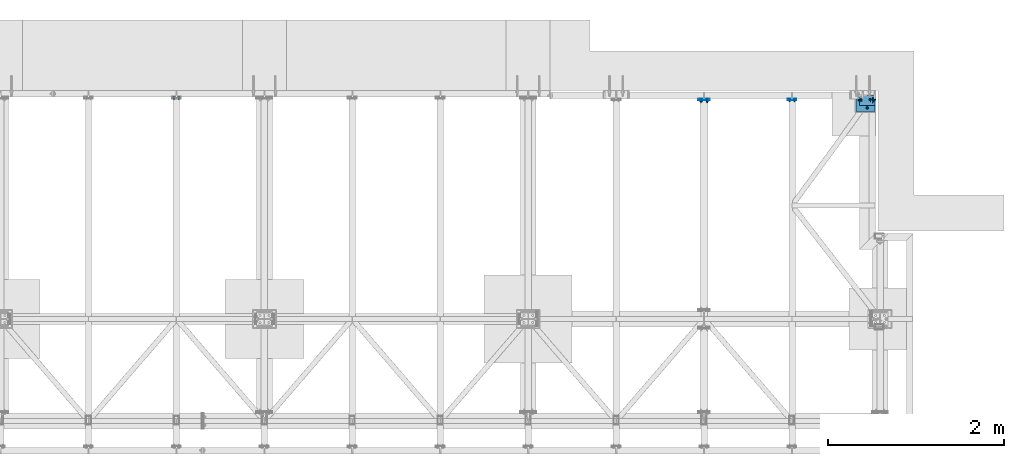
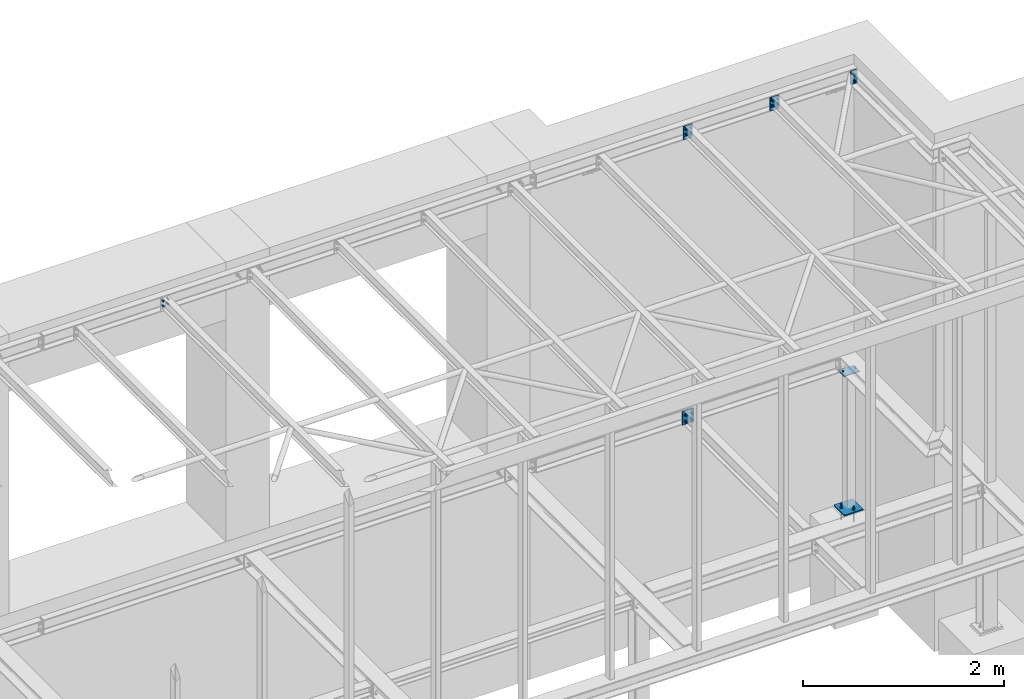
# One storey, part 19 of 23: 9 discrete accessories, 8 mechanical fasteners, 8 elements without a shape of their own.
"""IFC2X3 building model written with IfcOpenShell, lengths in millimetres."""

from ifc_helpers import new_model, si_unit, frame, origin_with_axes, origin_2d_with_axis, place, context, subcontext, project, spatial, polyline, circle, outline, extrude, source, transform, mapped, material, type_object, element, aggregate, save


model = new_model("IFC2X3")

# Units and contexts
model_context = context("Model", 3, precision=1e-05, world=origin_with_axes())
body_context = subcontext(model_context, "Body", "Model", "MODEL_VIEW")
ifc_project = project(units=[si_unit("LENGTHUNIT", "METRE", prefix="MILLI"), si_unit("AREAUNIT", "SQUARE_METRE"), si_unit("VOLUMEUNIT", "CUBIC_METRE"), si_unit("MASSUNIT", "GRAM", prefix="KILO"), si_unit("TIMEUNIT", "SECOND"), si_unit("PLANEANGLEUNIT", "RADIAN"), si_unit("SOLIDANGLEUNIT", "STERADIAN"), si_unit("THERMODYNAMICTEMPERATUREUNIT", "DEGREE_CELSIUS"), si_unit("LUMINOUSINTENSITYUNIT", "LUMEN")], contexts=[model_context])

# Site, building, storey
site_placement = place(None, origin_with_axes())
site = spatial("IfcSite", under=ifc_project, at=site_placement, Name="Undefined", CompositionType="ELEMENT")
building_placement = place(site_placement, origin_with_axes())
building = spatial("IfcBuilding", under=site, at=building_placement, Name="Undefined", CompositionType="ELEMENT")
storey_placement = place(building_placement, origin_with_axes())
storey = spatial("IfcBuildingStorey", under=building, at=storey_placement, Name="Undefined", CompositionType="ELEMENT", Elevation=0.0)

# Assembly, mechanical fastener
assembly_1_placement = place(storey_placement, origin_with_axes())
assembly_1 = element("IfcElementAssembly", 1, at=assembly_1_placement, inside=storey, Name="Steel Assembly", AssemblyPlace="NOTDEFINED", PredefinedType="RIGID_FRAME")
ifc_material_1 = material(Name="Undefined")
discrete_accessory_type_1 = type_object("IfcDiscreteAccessoryType", Name="Bolt assembly")
shared_shape_1 = source(origin_with_axes(), body_context, "Body", "SweptSolid", [
    extrude(circle(Radius=9.0, at=origin_2d_with_axis()), frame((0.0, -10.1, 0.0), z_axis=(0.0, 1.0, 0.0), x_axis=(1.0, 0.0, 0.0)), (0.0, 0.0, 1.0), 10.1),
    extrude(circle(Radius=9.0, at=origin_2d_with_axis()), frame((0.0, -19.9, 0.0), z_axis=(0.0, 1.0, 0.0), x_axis=(1.0, 0.0, 0.0)), (0.0, 0.0, 1.0), 10.0),
    extrude(outline(polyline([(13.85640646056, 0.0), (6.92820323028, 12.0000000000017), (-6.92820323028, 12.0000000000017), (-13.85640646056, 0.0), (-6.92820323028, -12.0000000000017), (6.92820323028, -12.0000000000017), (13.85640646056, 0.0)])), frame((0.0, -33.0, 0.0), z_axis=(0.0, 1.0, 0.0), x_axis=(1.0, 0.0, 0.0)), (0.0, 0.0, 1.0), 10.0),
    extrude(circle(Radius=8.0, at=origin_2d_with_axis()), frame((0.0, -23.0, 0.0), z_axis=(0.0, 1.0, 0.0), x_axis=(1.0, 0.0, 0.0)), (0.0, 0.0, 1.0), 50.0),
    extrude(circle(Radius=15.0, at=origin_2d_with_axis()), frame((0.0, -23.0, 0.0), z_axis=(0.0, 1.0, 0.0), x_axis=(1.0, 0.0, 0.0)), (0.0, 0.0, 1.0), 3.0),
    extrude(circle(Radius=15.0, at=origin_2d_with_axis()), frame((0.0, 0.0, 0.0), z_axis=(0.0, 1.0, 0.0), x_axis=(1.0, 0.0, 0.0)), (0.0, 0.0, 1.0), 3.0),
    extrude(outline(polyline([(15.4441197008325, 0.0), (7.72205985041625, 13.3750000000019), (-7.72205985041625, 13.3750000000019), (-15.4441197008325, 0.0), (-7.72205985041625, -13.3750000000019), (7.72205985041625, -13.3750000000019), (15.4441197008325, 0.0)])), frame((0.0, 3.0, 0.0), z_axis=(0.0, 1.0, 0.0), x_axis=(1.0, 0.0, 0.0)), (0.0, 0.0, 1.0), 13.0),
])
mechanical_fastener_1_placement = place(assembly_1_placement, frame((15960.0, 3745.0, 3210.0), z_axis=(0.0, 0.0, -1.0), x_axis=(1.0, 0.0, 0.0)))
mechanical_fastener_1 = element("IfcMechanicalFastener", 2, at=mechanical_fastener_1_placement, type_object=discrete_accessory_type_1, material=ifc_material_1, Name="Bolt assembly", NominalDiameter=16.0, NominalLength=50.0, context=body_context, shape_type="MappedRepresentation", body=[
    mapped(shared_shape_1, transform((0.0, 0.0, 40.0))),
    mapped(shared_shape_1, transform((0.0, 0.0, -40.0))),
])

# Assembly, discrete accessory
assembly_2_placement = place(storey_placement, origin_with_axes())
assembly_2 = element("IfcElementAssembly", 3, at=assembly_2_placement, inside=storey, Name="Steel Assembly", AssemblyPlace="NOTDEFINED", PredefinedType="RIGID_FRAME")
ifc_material_2 = material(Name="STEEL/S235JR")
discrete_accessory_type_2 = type_object("IfcDiscreteAccessoryType", Name="PLECH")
discrete_accessory_1_placement = place(assembly_2_placement, frame((13985.0, 3750.0, -168.0), z_axis=(0.0, 1.0, 0.0), x_axis=(1.0, 0.0, 0.0)))
discrete_accessory_1 = element("IfcDiscreteAccessory", 4, at=discrete_accessory_1_placement, type_object=discrete_accessory_type_2, material=ifc_material_2, Name="PLECH", ObjectType="PL10*130", context=body_context, shape_type="SweptSolid", body=[
    extrude(outline(polyline([(0.0, 0.0), (130.0, 0.0), (130.0, 164.0), (0.0, 164.0), (0.0, 0.0)])), frame((0.0, 0.0, -5.0), z_axis=(0.0, 0.0, 1.0), x_axis=(1.0, 0.0, 0.0)), (0.0, 0.0, 1.0), 10.0),
])
aggregate(assembly_2, [discrete_accessory_1])

assembly_3_placement = place(storey_placement, origin_with_axes())
assembly_3 = element("IfcElementAssembly", 5, at=assembly_3_placement, inside=storey, Name="Steel Assembly", AssemblyPlace="NOTDEFINED", PredefinedType="RIGID_FRAME")
discrete_accessory_2_placement = place(assembly_3_placement, frame((15925.0, 3750.0, 3130.0), z_axis=(0.0, 1.0, 0.0), x_axis=(0.0, 0.0, 1.0)))
discrete_accessory_2 = element("IfcDiscreteAccessory", 6, at=discrete_accessory_2_placement, type_object=discrete_accessory_type_2, material=ifc_material_2, Name="PLECH", ObjectType="PL10*75", context=body_context, shape_type="SweptSolid", body=[
    extrude(outline(polyline([(0.0, 0.0), (160.0, 0.0), (160.0, 75.0), (0.0, 75.0), (0.0, 0.0)])), frame((0.0, 0.0, -5.0), z_axis=(0.0, 0.0, 1.0), x_axis=(1.0, 0.0, 0.0)), (0.0, 0.0, 1.0), 10.0),
])
aggregate(assembly_3, [discrete_accessory_2])

# Discrete accessory
discrete_accessory_3_placement = place(assembly_1_placement, frame((15925.0, 3760.0, 3130.0), z_axis=(0.0, 1.0, 0.0), x_axis=(0.0, 0.0, 1.0)))
discrete_accessory_3 = element("IfcDiscreteAccessory", 7, at=discrete_accessory_3_placement, type_object=discrete_accessory_type_2, material=ifc_material_2, Name="PLECH", ObjectType="PL10*75", context=body_context, shape_type="SweptSolid", body=[
    extrude(outline(polyline([(0.0, 0.0), (160.0, 0.0), (160.0, 75.0), (0.0, 75.0), (0.0, 0.0)])), frame((0.0, 0.0, -5.0), z_axis=(0.0, 0.0, 1.0), x_axis=(1.0, 0.0, 0.0)), (0.0, 0.0, 1.0), 10.0),
])

# Assembly, discrete accessories
assembly_4_placement = place(storey_placement, origin_with_axes())
assembly_4 = element("IfcElementAssembly", 8, at=assembly_4_placement, inside=storey, Name="Steel Assembly", AssemblyPlace="NOTDEFINED", PredefinedType="RIGID_FRAME")
discrete_accessory_4_placement = place(assembly_4_placement, frame((15995.0, 3830.0, -1982.5), z_axis=(0.0, 0.0, 1.0), x_axis=(-1.0, 0.0, 0.0)))
discrete_accessory_4 = element("IfcDiscreteAccessory", 9, at=discrete_accessory_4_placement, type_object=discrete_accessory_type_2, material=ifc_material_2, Name="PLECH", ObjectType="PL15*210", context=body_context, shape_type="SweptSolid", body=[
    extrude(outline(polyline([(0.0, 0.0), (220.0, 0.0), (220.0, 210.0), (0.0, 210.0), (0.0, 0.0)])), frame((0.0, 0.0, -7.5), z_axis=(0.0, 0.0, 1.0), x_axis=(1.0, 0.0, 0.0)), (0.0, 0.0, 1.0), 15.0),
])
discrete_accessory_5_placement = place(assembly_4_placement, frame((15995.0, 3810.0, -345.0), z_axis=(0.0, 0.0, 1.0), x_axis=(-1.0, 0.0, 0.0)))
discrete_accessory_5 = element("IfcDiscreteAccessory", 10, at=discrete_accessory_5_placement, type_object=discrete_accessory_type_2, material=ifc_material_2, Name="PLECH", ObjectType="PL10*120", context=body_context, shape_type="SweptSolid", body=[
    extrude(outline(polyline([(0.0, 0.0), (180.0, 0.0), (180.0, 120.0), (0.0, 120.0), (0.0, 0.0)])), frame((0.0, 0.0, -5.0), z_axis=(0.0, 0.0, 1.0), x_axis=(1.0, 0.0, 0.0)), (0.0, 0.0, 1.0), 10.0),
])

# Assembly, discrete accessory
assembly_5_placement = place(storey_placement, origin_with_axes())
assembly_5 = element("IfcElementAssembly", 11, at=assembly_5_placement, inside=storey, Name="Steel Assembly", AssemblyPlace="NOTDEFINED", PredefinedType="RIGID_FRAME")
discrete_accessory_6_placement = place(assembly_5_placement, frame((15000.0, 3751.0, 3175.0), z_axis=(0.0, 1.0, 0.0), x_axis=(0.0, 0.0, 1.0)))
discrete_accessory_6 = element("IfcDiscreteAccessory", 12, at=discrete_accessory_6_placement, type_object=discrete_accessory_type_2, material=ifc_material_2, Name="PLECH", ObjectType="PL8*100", context=body_context, shape_type="SweptSolid", body=[
    extrude(outline(polyline([(0.0, 0.0), (110.0, 0.0), (110.0, 100.0), (-9.09494701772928e-13, 100.0), (0.0, 0.0)])), frame((0.0, 0.0, -4.0), z_axis=(0.0, 0.0, 1.0), x_axis=(1.0, 0.0, 0.0)), (0.0, 0.0, 1.0), 8.0),
])
aggregate(assembly_5, [discrete_accessory_6])

# Discrete accessory
discrete_accessory_7_placement = place(assembly_1_placement, frame((15000.0, 3760.0, 3128.0), z_axis=(0.0, 1.0, 0.0), x_axis=(0.0, 0.0, 1.0)))
discrete_accessory_7 = element("IfcDiscreteAccessory", 13, at=discrete_accessory_7_placement, type_object=discrete_accessory_type_2, material=ifc_material_2, Name="PLECH", ObjectType="PL10*100", context=body_context, shape_type="SweptSolid", body=[
    extrude(outline(polyline([(0.0, 0.0), (164.0, 4.54747350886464e-13), (164.0, 100.0), (-9.09494701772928e-13, 100.0), (0.0, 0.0)])), frame((0.0, 0.0, -5.0), z_axis=(0.0, 0.0, 1.0), x_axis=(1.0, 0.0, 0.0)), (0.0, 0.0, 1.0), 10.0),
])

# Assembly, discrete accessory
assembly_6_placement = place(storey_placement, origin_with_axes())
assembly_6 = element("IfcElementAssembly", 14, at=assembly_6_placement, inside=storey, Name="Steel Assembly", AssemblyPlace="NOTDEFINED", PredefinedType="RIGID_FRAME")
discrete_accessory_8_placement = place(assembly_6_placement, frame((14000.0, 3751.0, 3175.0), z_axis=(0.0, 1.0, 0.0), x_axis=(0.0, 0.0, 1.0)))
discrete_accessory_8 = element("IfcDiscreteAccessory", 15, at=discrete_accessory_8_placement, type_object=discrete_accessory_type_2, material=ifc_material_2, Name="PLECH", ObjectType="PL8*100", context=body_context, shape_type="SweptSolid", body=[
    extrude(outline(polyline([(0.0, 0.0), (110.0, 0.0), (110.0, 100.0), (-9.09494701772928e-13, 100.0), (0.0, 0.0)])), frame((0.0, 0.0, -4.0), z_axis=(0.0, 0.0, 1.0), x_axis=(1.0, 0.0, 0.0)), (0.0, 0.0, 1.0), 8.0),
])
aggregate(assembly_6, [discrete_accessory_8])

# Discrete accessory
discrete_accessory_9_placement = place(assembly_1_placement, frame((14000.0, 3760.0, 3128.0), z_axis=(0.0, 1.0, 0.0), x_axis=(0.0, 0.0, 1.0)))
discrete_accessory_9 = element("IfcDiscreteAccessory", 16, at=discrete_accessory_9_placement, type_object=discrete_accessory_type_2, material=ifc_material_2, Name="PLECH", ObjectType="PL10*100", context=body_context, shape_type="SweptSolid", body=[
    extrude(outline(polyline([(0.0, 0.0), (164.0, 4.54747350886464e-13), (164.0, 100.0), (-9.09494701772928e-13, 100.0), (0.0, 0.0)])), frame((0.0, 0.0, -5.0), z_axis=(0.0, 0.0, 1.0), x_axis=(1.0, 0.0, 0.0)), (0.0, 0.0, 1.0), 10.0),
])

# Mechanical fastener
shared_shape_2 = source(origin_with_axes(), body_context, "Body", "SweptSolid", [
    extrude(circle(Radius=9.0, at=origin_2d_with_axis()), frame((0.0, -15.0, 0.0), z_axis=(0.0, 1.0, 0.0), x_axis=(1.0, 0.0, 0.0)), (0.0, 0.0, 1.0), 15.1),
    extrude(outline(polyline([(7.73649338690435, 0.0), (3.86824669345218, 6.69999980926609), (-3.86824669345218, 6.69999980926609), (-7.73649338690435, 0.0), (-3.86824669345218, -6.69999980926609), (3.86824669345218, -6.69999980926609), (7.73649338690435, 0.0)])), frame((0.0, -147.0, 0.0), z_axis=(0.0, 1.0, 0.0), x_axis=(1.0, 0.0, 0.0)), (0.0, 0.0, 1.0), 132.0),
    extrude(circle(Radius=8.0, at=origin_2d_with_axis()), frame((0.0, -15.0, 0.0), z_axis=(0.0, 1.0, 0.0), x_axis=(1.0, 0.0, 0.0)), (0.0, 0.0, 1.0), 58.0),
    extrude(circle(Radius=15.0, at=origin_2d_with_axis()), frame((0.0, 0.0, 0.0), z_axis=(0.0, 1.0, 0.0), x_axis=(1.0, 0.0, 0.0)), (0.0, 0.0, 1.0), 3.0),
    extrude(outline(polyline([(15.4441197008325, 0.0), (7.72205985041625, 13.3750000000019), (-7.72205985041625, 13.3750000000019), (-15.4441197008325, 0.0), (-7.72205985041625, -13.3750000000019), (7.72205985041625, -13.3750000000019), (15.4441197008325, 0.0)])), frame((0.0, 3.0, 0.0), z_axis=(0.0, 1.0, 0.0), x_axis=(1.0, 0.0, 0.0)), (0.0, 0.0, 1.0), 13.0),
])
mechanical_fastener_2_placement = place(assembly_4_placement, frame((15905.0, 3660.0, -1975.0), z_axis=(0.0, -1.0, 0.0), x_axis=(1.0, 0.0, 0.0)))
mechanical_fastener_2 = element("IfcMechanicalFastener", 17, at=mechanical_fastener_2_placement, type_object=discrete_accessory_type_1, material=ifc_material_1, Name="Bolt assembly", NominalDiameter=16.0, NominalLength=58.0, context=body_context, shape_type="MappedRepresentation", body=[
    mapped(shared_shape_2, transform((0.0, 0.0, 0.0))),
])

mechanical_fastener_3_placement = place(assembly_4_placement, frame((15815.0, 3750.0, -1975.0), z_axis=(0.0, -1.0, 0.0), x_axis=(1.0, 0.0, 0.0)))
mechanical_fastener_3 = element("IfcMechanicalFastener", 18, at=mechanical_fastener_3_placement, type_object=discrete_accessory_type_1, material=ifc_material_1, Name="Bolt assembly", NominalDiameter=16.0, NominalLength=58.0, context=body_context, shape_type="MappedRepresentation", body=[
    mapped(shared_shape_2, transform((0.0, 0.0, 0.0))),
])

# Assembly, mechanical fastener
assembly_7_placement = place(storey_placement, origin_with_axes())
assembly_7 = element("IfcElementAssembly", 19, at=assembly_7_placement, inside=storey, AssemblyPlace="NOTDEFINED", PredefinedType="REINFORCEMENT_UNIT")
mechanical_fastener_type = type_object("IfcMechanicalFastenerType", Name="Bolt assembly")
shared_shape_3 = source(origin_with_axes(), body_context, "Body", "SweptSolid", [
    extrude(circle(Radius=9.0, at=origin_2d_with_axis()), frame((0.0, -0.1, 0.0), z_axis=(0.0, 1.0, 0.0), x_axis=(1.0, 0.0, 0.0)), (0.0, 0.0, 1.0), 10.1),
    extrude(circle(Radius=9.0, at=origin_2d_with_axis()), frame((0.0, -9.9, 0.0), z_axis=(0.0, 1.0, 0.0), x_axis=(1.0, 0.0, 0.0)), (0.0, 0.0, 1.0), 10.0),
    extrude(outline(polyline([(13.85640646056, 0.0), (6.92820323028, 12.0000000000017), (-6.92820323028, 12.0000000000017), (-13.85640646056, 0.0), (-6.92820323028, -12.0000000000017), (6.92820323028, -12.0000000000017), (13.85640646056, 0.0)])), frame((0.0, -23.0, 0.0), z_axis=(0.0, 1.0, 0.0), x_axis=(1.0, 0.0, 0.0)), (0.0, 0.0, 1.0), 10.0),
    extrude(circle(Radius=8.0, at=origin_2d_with_axis()), frame((0.0, -13.0, 0.0), z_axis=(0.0, 1.0, 0.0), x_axis=(1.0, 0.0, 0.0)), (0.0, 0.0, 1.0), 50.0),
    extrude(circle(Radius=15.0, at=origin_2d_with_axis()), frame((0.0, -13.0, 0.0), z_axis=(0.0, 1.0, 0.0), x_axis=(1.0, 0.0, 0.0)), (0.0, 0.0, 1.0), 3.0),
    extrude(circle(Radius=15.0, at=origin_2d_with_axis()), frame((0.0, 10.0, 0.0), z_axis=(0.0, 1.0, 0.0), x_axis=(1.0, 0.0, 0.0)), (0.0, 0.0, 1.0), 3.0),
    extrude(outline(polyline([(15.4441197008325, 0.0), (7.72205985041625, 13.3750000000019), (-7.72205985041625, 13.3750000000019), (-15.4441197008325, 0.0), (-7.72205985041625, -13.3750000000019), (7.72205985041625, -13.3750000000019), (15.4441197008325, 0.0)])), frame((0.0, 13.0, 0.0), z_axis=(0.0, 1.0, 0.0), x_axis=(1.0, 0.0, 0.0)), (0.0, 0.0, 1.0), 13.0),
])
mechanical_fastener_4_placement = place(assembly_7_placement, frame((14015.0, 3755.0, -250.0), z_axis=(0.0, 0.0, -1.0), x_axis=(1.0, 0.0, 0.0)))
mechanical_fastener_4 = element("IfcMechanicalFastener", 20, at=mechanical_fastener_4_placement, type_object=mechanical_fastener_type, material=ifc_material_1, Name="Bolt assembly", NominalDiameter=16.0, NominalLength=50.0, context=body_context, shape_type="MappedRepresentation", body=[
    mapped(shared_shape_3, transform((0.0, 0.0, 40.0))),
    mapped(shared_shape_3, transform((70.0, 0.0, 40.0))),
    mapped(shared_shape_3, transform((0.0, 0.0, -40.0))),
    mapped(shared_shape_3, transform((70.0, 0.0, -40.0))),
])
aggregate(assembly_7, [mechanical_fastener_4])

# Mechanical fastener
shared_shape_4 = source(origin_with_axes(), body_context, "Body", "SweptSolid", [
    extrude(circle(Radius=6.5, at=origin_2d_with_axis()), frame((0.0, -13.9, 0.0), z_axis=(0.0, 1.0, 0.0), x_axis=(1.0, 0.0, 0.0)), (0.0, 0.0, 1.0), 14.0),
    extrude(circle(Radius=6.5, at=origin_2d_with_axis()), frame((0.0, -0.1, 0.0), z_axis=(0.0, 1.0, 0.0), x_axis=(1.0, 0.0, 0.0)), (0.0, 0.0, 1.0), 10.1),
    extrude(outline(polyline([(10.39230484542, 0.0), (5.19615242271, 9.00000000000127), (-5.19615242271, 9.00000000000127), (-10.39230484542, 0.0), (-5.19615242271, -9.00000000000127), (5.19615242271, -9.00000000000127), (10.39230484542, 0.0)])), frame((0.0, -24.0, 0.0), z_axis=(0.0, 1.0, 0.0), x_axis=(1.0, 0.0, 0.0)), (0.0, 0.0, 1.0), 7.5),
    extrude(circle(Radius=6.0, at=origin_2d_with_axis()), frame((0.0, -16.5, 0.0), z_axis=(0.0, 1.0, 0.0), x_axis=(1.0, 0.0, 0.0)), (0.0, 0.0, 1.0), 45.0),
    extrude(circle(Radius=12.0, at=origin_2d_with_axis()), frame((0.0, -16.5, 0.0), z_axis=(0.0, 1.0, 0.0), x_axis=(1.0, 0.0, 0.0)), (0.0, 0.0, 1.0), 2.5),
    extrude(circle(Radius=12.0, at=origin_2d_with_axis()), frame((0.0, 10.0, 0.0), z_axis=(0.0, 1.0, 0.0), x_axis=(1.0, 0.0, 0.0)), (0.0, 0.0, 1.0), 2.5),
    extrude(outline(polyline([(10.96965511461, 0.0), (5.484827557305, 9.50000000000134), (-5.484827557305, 9.50000000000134), (-10.96965511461, 0.0), (-5.484827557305, -9.50000000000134), (5.484827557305, -9.50000000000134), (10.96965511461, 0.0)])), frame((0.0, 12.5, 0.0), z_axis=(0.0, 1.0, 0.0), x_axis=(1.0, 0.0, 0.0)), (0.0, 0.0, 1.0), 10.0),
])
mechanical_fastener_5_placement = place(assembly_4_placement, frame((15835.0, 3750.0, -340.0), z_axis=(0.0, 1.0, 0.0), x_axis=(1.0, 0.0, 0.0)))
mechanical_fastener_5 = element("IfcMechanicalFastener", 21, at=mechanical_fastener_5_placement, type_object=discrete_accessory_type_1, material=ifc_material_1, Name="Bolt assembly", NominalDiameter=12.0, NominalLength=45.0, context=body_context, shape_type="MappedRepresentation", body=[
    mapped(shared_shape_4, transform((0.0, 0.0, 0.0))),
    mapped(shared_shape_4, transform((140.0, 0.0, 0.0))),
])

aggregate(assembly_4, [mechanical_fastener_2, mechanical_fastener_3, discrete_accessory_4, mechanical_fastener_5, discrete_accessory_5])

shared_shape_5 = source(origin_with_axes(), body_context, "Body", "SweptSolid", [
    extrude(circle(Radius=6.5, at=origin_2d_with_axis()), frame((0.0, -0.1, 0.0), z_axis=(0.0, 1.0, 0.0), x_axis=(1.0, 0.0, 0.0)), (0.0, 0.0, 1.0), 8.1),
    extrude(circle(Radius=6.5, at=origin_2d_with_axis()), frame((0.0, -9.9, 0.0), z_axis=(0.0, 1.0, 0.0), x_axis=(1.0, 0.0, 0.0)), (0.0, 0.0, 1.0), 10.0),
    extrude(outline(polyline([(10.96965511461, 0.0), (5.484827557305, 9.50000000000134), (-5.484827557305, 9.50000000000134), (-10.96965511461, 0.0), (-5.484827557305, -9.50000000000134), (5.484827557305, -9.50000000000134), (10.96965511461, 0.0)])), frame((0.0, -20.0, 0.0), z_axis=(0.0, 1.0, 0.0), x_axis=(1.0, 0.0, 0.0)), (0.0, 0.0, 1.0), 7.5),
    extrude(circle(Radius=6.0, at=origin_2d_with_axis()), frame((0.0, -12.5, 0.0), z_axis=(0.0, 1.0, 0.0), x_axis=(1.0, 0.0, 0.0)), (0.0, 0.0, 1.0), 40.0),
    extrude(circle(Radius=12.0, at=origin_2d_with_axis()), frame((0.0, -12.5, 0.0), z_axis=(0.0, 1.0, 0.0), x_axis=(1.0, 0.0, 0.0)), (0.0, 0.0, 1.0), 2.5),
    extrude(circle(Radius=12.0, at=origin_2d_with_axis()), frame((0.0, 8.0, 0.0), z_axis=(0.0, 1.0, 0.0), x_axis=(1.0, 0.0, 0.0)), (0.0, 0.0, 1.0), 2.5),
    extrude(outline(polyline([(10.96965511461, 0.0), (5.484827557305, 9.50000000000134), (-5.484827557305, 9.50000000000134), (-10.96965511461, 0.0), (-5.484827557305, -9.50000000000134), (5.484827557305, -9.50000000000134), (10.96965511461, 0.0)])), frame((0.0, 10.5, 0.0), z_axis=(0.0, 1.0, 0.0), x_axis=(1.0, 0.0, 0.0)), (0.0, 0.0, 1.0), 10.0),
])
mechanical_fastener_6_placement = place(assembly_1_placement, frame((15020.0, 3755.0, 3230.0), z_axis=(0.0, 0.0, -1.0), x_axis=(1.0, 0.0, 0.0)))
mechanical_fastener_6 = element("IfcMechanicalFastener", 22, at=mechanical_fastener_6_placement, type_object=discrete_accessory_type_1, material=ifc_material_1, Name="Bolt assembly", NominalDiameter=12.0, NominalLength=40.0, context=body_context, shape_type="MappedRepresentation", body=[
    mapped(shared_shape_5, transform((0.0, 0.0, -30.0))),
    mapped(shared_shape_5, transform((60.0, 0.0, -30.0))),
    mapped(shared_shape_5, transform((0.0, 0.0, 30.0))),
    mapped(shared_shape_5, transform((60.0, 0.0, 30.0))),
])

mechanical_fastener_7_placement = place(assembly_1_placement, frame((14020.0, 3755.0, 3230.0), z_axis=(0.0, 0.0, -1.0), x_axis=(1.0, 0.0, 0.0)))
mechanical_fastener_7 = element("IfcMechanicalFastener", 23, at=mechanical_fastener_7_placement, type_object=discrete_accessory_type_1, material=ifc_material_1, Name="Bolt assembly", NominalDiameter=12.0, NominalLength=40.0, context=body_context, shape_type="MappedRepresentation", body=[
    mapped(shared_shape_5, transform((0.0, 0.0, -30.0))),
    mapped(shared_shape_5, transform((60.0, 0.0, -30.0))),
    mapped(shared_shape_5, transform((0.0, 0.0, 30.0))),
    mapped(shared_shape_5, transform((60.0, 0.0, 30.0))),
])

aggregate(assembly_1, [mechanical_fastener_1, discrete_accessory_3, mechanical_fastener_6, discrete_accessory_7, mechanical_fastener_7, discrete_accessory_9])

# Assembly, mechanical fastener
assembly_8_placement = place(storey_placement, origin_with_axes())
assembly_8 = element("IfcElementAssembly", 24, at=assembly_8_placement, inside=storey, Name="Steel Assembly", AssemblyPlace="NOTDEFINED", PredefinedType="RIGID_FRAME")
mechanical_fastener_8_placement = place(assembly_8_placement, frame((8020.0, 3775.0, 3230.0), z_axis=(0.0, 0.0, -1.0), x_axis=(1.0, 0.0, 0.0)))
mechanical_fastener_8 = element("IfcMechanicalFastener", 25, at=mechanical_fastener_8_placement, type_object=discrete_accessory_type_1, material=ifc_material_1, Name="Bolt assembly", NominalDiameter=12.0, NominalLength=40.0, context=body_context, shape_type="MappedRepresentation", body=[
    mapped(shared_shape_5, transform((0.0, 0.0, -30.0))),
    mapped(shared_shape_5, transform((60.0, 0.0, -30.0))),
    mapped(shared_shape_5, transform((0.0, 0.0, 30.0))),
    mapped(shared_shape_5, transform((60.0, 0.0, 30.0))),
])
aggregate(assembly_8, [mechanical_fastener_8])

save(model, "model.ifc")
